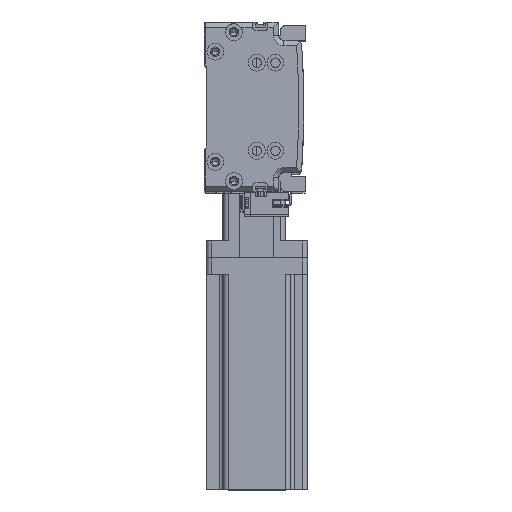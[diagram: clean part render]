
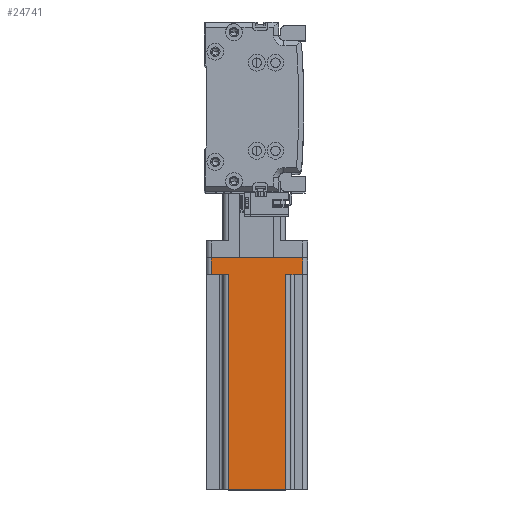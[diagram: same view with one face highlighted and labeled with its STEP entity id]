
A CAD part, top view. The second image highlights one B-rep face of the part: STEP entity #24741.
In plain terms, the highlighted planar face has unit normal (0, 0, 1) as drawn and (0, 1, 0) by its records, which use the part's own axes.
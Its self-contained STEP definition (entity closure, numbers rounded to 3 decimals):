
#231 = CARTESIAN_POINT ( 'NONE',  ( 17., 30., 10. ) ) ;
#384 = VECTOR ( 'NONE', #37904, 1000. ) ;
#403 = VERTEX_POINT ( 'NONE', #231 ) ;
#442 = CARTESIAN_POINT ( 'NONE',  ( 20., 30., 10. ) ) ;
#584 = VERTEX_POINT ( 'NONE', #16127 ) ;
#1542 = LINE ( 'NONE', #442, #384 ) ;
#1681 = CARTESIAN_POINT ( 'NONE',  ( 17., 30., 137. ) ) ;
#1896 = ORIENTED_EDGE ( 'NONE', *, *, #21373, .T. ) ;
#2589 = DIRECTION ( 'NONE',  ( 0., 0., -1. ) ) ;
#2847 = VERTEX_POINT ( 'NONE', #8932 ) ;
#4418 = LINE ( 'NONE', #42306, #22025 ) ;
#4626 = VECTOR ( 'NONE', #7375, 1000. ) ;
#7375 = DIRECTION ( 'NONE',  ( -1., 0., 0. ) ) ;
#8932 = CARTESIAN_POINT ( 'NONE',  ( -17., 30., 10. ) ) ;
#11007 = CARTESIAN_POINT ( 'NONE',  ( -20., 30., 10. ) ) ;
#12369 = DIRECTION ( 'NONE',  ( -1., 0., 0. ) ) ;
#13024 = ORIENTED_EDGE ( 'NONE', *, *, #39634, .T. ) ;
#13789 = VECTOR ( 'NONE', #37243, 1000. ) ;
#14018 = CARTESIAN_POINT ( 'NONE',  ( -27., 30., 0. ) ) ;
#14557 = LINE ( 'NONE', #18506, #4626 ) ;
#14629 = VERTEX_POINT ( 'NONE', #43248 ) ;
#15032 = VECTOR ( 'NONE', #2589, 1000. ) ;
#15340 = EDGE_CURVE ( 'NONE', #29895, #403, #20760, .T. ) ;
#16127 = CARTESIAN_POINT ( 'NONE',  ( -17., 30., 137. ) ) ;
#16978 = DIRECTION ( 'NONE',  ( 0., 0., 1. ) ) ;
#17126 = CARTESIAN_POINT ( 'NONE',  ( 30., 30., 137. ) ) ;
#17738 = DIRECTION ( 'NONE',  ( 0., 0., 1. ) ) ;
#18506 = CARTESIAN_POINT ( 'NONE',  ( 30., 30., 137. ) ) ;
#19670 = ORIENTED_EDGE ( 'NONE', *, *, #22005, .T. ) ;
#20231 = CARTESIAN_POINT ( 'NONE',  ( -27., 30., 10. ) ) ;
#20536 = EDGE_CURVE ( 'NONE', #29895, #584, #14557, .T. ) ;
#20760 = LINE ( 'NONE', #1681, #30669 ) ;
#20901 = DIRECTION ( 'NONE',  ( 1., 0., 0. ) ) ;
#21373 = EDGE_CURVE ( 'NONE', #40903, #14629, #48347, .T. ) ;
#22005 = EDGE_CURVE ( 'NONE', #23324, #2847, #32563, .T. ) ;
#22025 = VECTOR ( 'NONE', #12369, 1000. ) ;
#22256 = LINE ( 'NONE', #43102, #32207 ) ;
#22581 = ORIENTED_EDGE ( 'NONE', *, *, #15340, .T. ) ;
#22685 = AXIS2_PLACEMENT_3D ( 'NONE', #17126, #43239, #20901 ) ;
#23324 = VERTEX_POINT ( 'NONE', #20231 ) ;
#24741 = ADVANCED_FACE ( 'NONE', ( #40089 ), #35604, .F. ) ;
#26556 = ORIENTED_EDGE ( 'NONE', *, *, #36406, .F. ) ;
#27093 = VECTOR ( 'NONE', #17738, 1000. ) ;
#27896 = DIRECTION ( 'NONE',  ( 0., 0., -1. ) ) ;
#27954 = EDGE_CURVE ( 'NONE', #2847, #584, #22256, .T. ) ;
#28108 = CARTESIAN_POINT ( 'NONE',  ( 27., 30., 10. ) ) ;
#28816 = CARTESIAN_POINT ( 'NONE',  ( 27., 30., 137. ) ) ;
#29895 = VERTEX_POINT ( 'NONE', #40789 ) ;
#30357 = EDGE_CURVE ( 'NONE', #36154, #23324, #37034, .T. ) ;
#30669 = VECTOR ( 'NONE', #27896, 1000. ) ;
#32207 = VECTOR ( 'NONE', #16978, 1000. ) ;
#32563 = LINE ( 'NONE', #11007, #13789 ) ;
#35604 = PLANE ( 'NONE',  #22685 ) ;
#35730 = ORIENTED_EDGE ( 'NONE', *, *, #27954, .T. ) ;
#36154 = VERTEX_POINT ( 'NONE', #14018 ) ;
#36406 = EDGE_CURVE ( 'NONE', #40903, #403, #1542, .T. ) ;
#37034 = LINE ( 'NONE', #43850, #27093 ) ;
#37243 = DIRECTION ( 'NONE',  ( 1., 0., 0. ) ) ;
#37904 = DIRECTION ( 'NONE',  ( -1., 0., 0. ) ) ;
#38050 = ORIENTED_EDGE ( 'NONE', *, *, #30357, .T. ) ;
#39634 = EDGE_CURVE ( 'NONE', #14629, #36154, #4418, .T. ) ;
#39667 = ORIENTED_EDGE ( 'NONE', *, *, #20536, .F. ) ;
#40089 = FACE_OUTER_BOUND ( 'NONE', #47290, .T. ) ;
#40789 = CARTESIAN_POINT ( 'NONE',  ( 17., 30., 137. ) ) ;
#40903 = VERTEX_POINT ( 'NONE', #28108 ) ;
#42306 = CARTESIAN_POINT ( 'NONE',  ( 30., 30., 0. ) ) ;
#43102 = CARTESIAN_POINT ( 'NONE',  ( -17., 30., 137. ) ) ;
#43239 = DIRECTION ( 'NONE',  ( 0., -1., 0. ) ) ;
#43248 = CARTESIAN_POINT ( 'NONE',  ( 27., 30., 0. ) ) ;
#43850 = CARTESIAN_POINT ( 'NONE',  ( -27., 30., 137. ) ) ;
#47290 = EDGE_LOOP ( 'NONE', ( #19670, #35730, #39667, #22581, #26556, #1896, #13024, #38050 ) ) ;
#48347 = LINE ( 'NONE', #28816, #15032 ) ;
